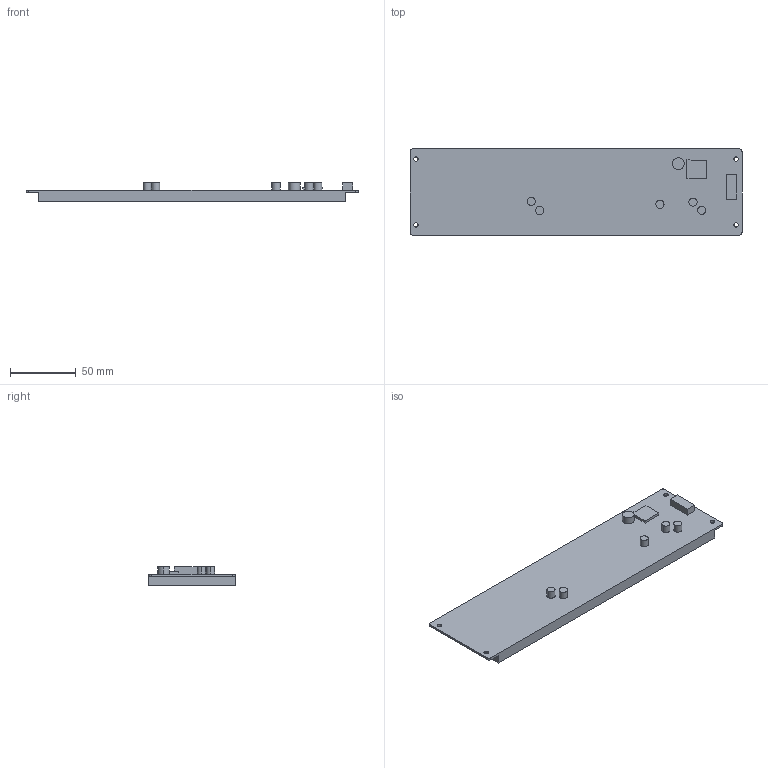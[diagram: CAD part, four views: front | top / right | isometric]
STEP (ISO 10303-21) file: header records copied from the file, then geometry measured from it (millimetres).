
FILE_DESCRIPTION((''),'2;1');
FILE_NAME('DMG19480T088-01WN-WTR','2021-10-26T',('Administrator'),(''),'PRO/ENGINEER BY PARAMETRIC TECHNOLOGY CORPORATION, 2008380','PRO/ENGINEER BY PARAMETRIC TECHNOLOGY CORPORATION, 2008380','');
FILE_SCHEMA(('CONFIG_CONTROL_DESIGN'));
Length unit declared in the file: millimetre
Products named in the file (1): DMG19480T088-01WN-WTR
Bounding box: 252 x 65.4 x 14.4 mm (x, y, z)
Volume: 130179.6 mm3; surface area: 39482.6 mm2
Topology: 1 solids, 1 shells, 57 faces, 16222 edges, 26852 vertices
Faces by surface type: plane 33, cylinder 24
Entity records: 87609 total; most frequent: DIRECTION 21827, CARTESIAN_POINT 16372, TRIMMED_CURVE 16084, VECTOR 10733, LINE 10733, AXIS2_PLACEMENT_3D 5547, CIRCLE 5489, ORIENTED_EDGE 276
